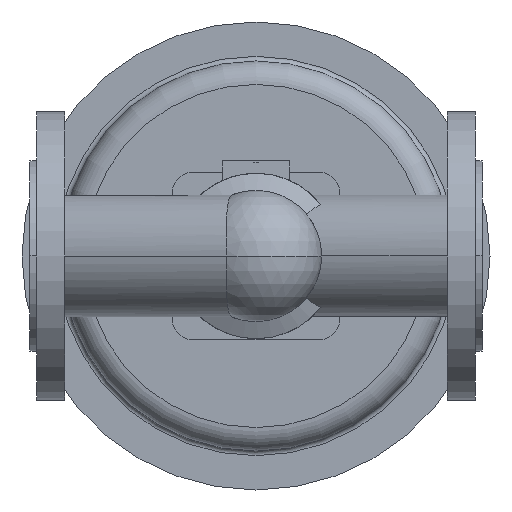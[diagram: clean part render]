
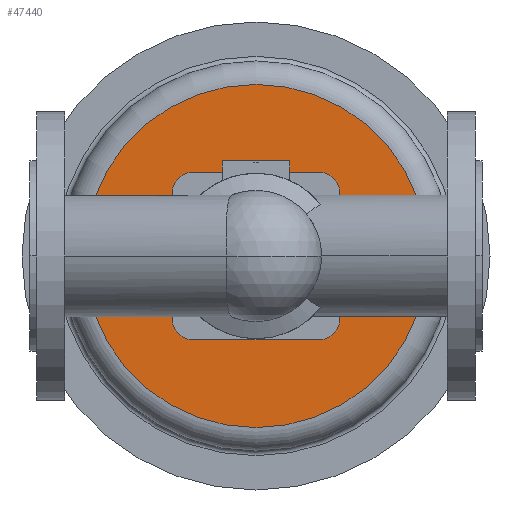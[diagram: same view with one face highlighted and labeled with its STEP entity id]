
A CAD part, front view. The second image highlights one B-rep face of the part: STEP entity #47440.
In plain terms, the highlighted planar face has unit normal (0, -1, 0).
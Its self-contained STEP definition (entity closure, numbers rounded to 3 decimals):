
#34740=CARTESIAN_POINT('',(35.,382.,0.));
#34750=VERTEX_POINT('',#34740);
#34840=CARTESIAN_POINT('',(255.,382.,0.));
#34850=VERTEX_POINT('',#34840);
#34880=CARTESIAN_POINT('',(145.,382.,0.));
#34890=DIRECTION('',(0.,1.,0.));
#34900=DIRECTION('',(1.,0.,0.));
#34910=AXIS2_PLACEMENT_3D('',#34880,#34890,#34900);
#34920=CIRCLE('',#34910,110.);
#34930=EDGE_CURVE('',#34750,#34850,#34920,.T.);
#35510=CARTESIAN_POINT('',(180.,382.,0.));
#35520=VERTEX_POINT('',#35510);
#35680=CARTESIAN_POINT('',(210.,382.,0.));
#35690=VERTEX_POINT('',#35680);
#35720=CARTESIAN_POINT('',(195.,382.,0.));
#35730=DIRECTION('',(0.,1.,0.));
#35740=DIRECTION('',(1.,0.,0.));
#35750=AXIS2_PLACEMENT_3D('',#35720,#35730,#35740);
#35760=CIRCLE('',#35750,15.);
#35770=EDGE_CURVE('',#35690,#35520,#35760,.T.);
#35930=CARTESIAN_POINT('',(110.,382.,0.));
#35940=VERTEX_POINT('',#35930);
#36100=CARTESIAN_POINT('',(80.,382.,0.));
#36110=VERTEX_POINT('',#36100);
#36140=CARTESIAN_POINT('',(95.,382.,0.));
#36150=DIRECTION('',(0.,1.,0.));
#36160=DIRECTION('',(1.,0.,0.));
#36170=AXIS2_PLACEMENT_3D('',#36140,#36150,#36160);
#36180=CIRCLE('',#36170,15.);
#36190=EDGE_CURVE('',#36110,#35940,#36180,.T.);
#36330=CARTESIAN_POINT('',(163.45,382.,0.));
#36340=VERTEX_POINT('',#36330);
#36560=CARTESIAN_POINT('',(126.55,382.,0.));
#36570=VERTEX_POINT('',#36560);
#36600=CARTESIAN_POINT('',(145.,382.,0.));
#36610=DIRECTION('',(0.,1.,0.));
#36620=DIRECTION('',(1.,0.,0.));
#36630=AXIS2_PLACEMENT_3D('',#36600,#36610,#36620);
#36640=CIRCLE('',#36630,18.45);
#36650=EDGE_CURVE('',#36570,#36340,#36640,.T.);
#47190=CARTESIAN_POINT('',(200.,382.,0.));
#47200=DIRECTION('',(0.,-1.,0.));
#47210=DIRECTION('',(-1.,0.,0.));
#47220=AXIS2_PLACEMENT_3D('',#47190,#47200,#47210);
#47230=PLANE('',#47220);
#47240=EDGE_CURVE('',#36340,#36570,#36640,.T.);
#47250=ORIENTED_EDGE('',*,*,#47240,.T.);
#47260=ORIENTED_EDGE('',*,*,#36650,.T.);
#47270=EDGE_LOOP('',(#47260,#47250));
#47280=FACE_BOUND('',#47270,.T.);
#47290=EDGE_CURVE('',#35940,#36110,#36180,.T.);
#47300=ORIENTED_EDGE('',*,*,#47290,.T.);
#47310=ORIENTED_EDGE('',*,*,#36190,.T.);
#47320=EDGE_LOOP('',(#47310,#47300));
#47330=FACE_BOUND('',#47320,.T.);
#47340=EDGE_CURVE('',#35520,#35690,#35760,.T.);
#47350=ORIENTED_EDGE('',*,*,#47340,.T.);
#47360=ORIENTED_EDGE('',*,*,#35770,.T.);
#47370=EDGE_LOOP('',(#47360,#47350));
#47380=FACE_BOUND('',#47370,.T.);
#47390=EDGE_CURVE('',#34850,#34750,#34920,.T.);
#47400=ORIENTED_EDGE('',*,*,#47390,.F.);
#47410=ORIENTED_EDGE('',*,*,#34930,.F.);
#47420=EDGE_LOOP('',(#47410,#47400));
#47430=FACE_OUTER_BOUND('',#47420,.T.);
#47440=ADVANCED_FACE('',(#47280,#47330,#47380,#47430),#47230,.T.);
